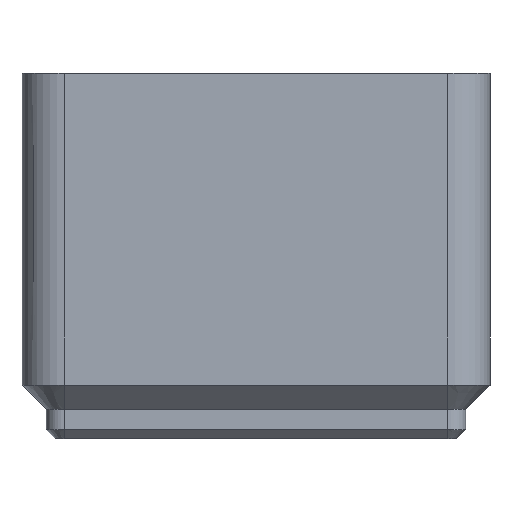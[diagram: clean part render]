
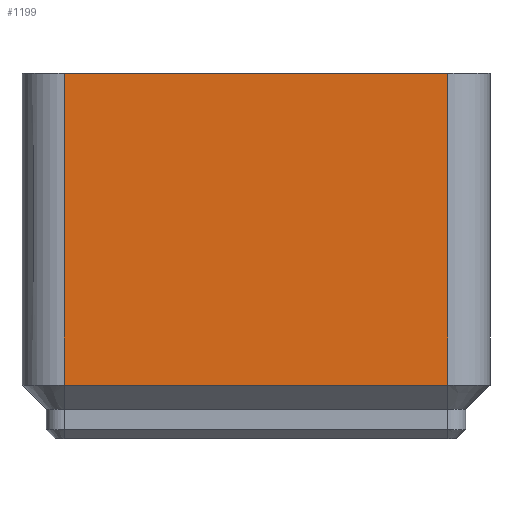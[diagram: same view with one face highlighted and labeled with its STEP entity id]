
A CAD part, left-side view. The second image highlights one B-rep face of the part: STEP entity #1199.
In plain terms, the highlighted planar face has unit normal (-1, 0, 0).
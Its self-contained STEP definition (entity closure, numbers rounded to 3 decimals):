
#416 = PLANE('',#417);
#417 = AXIS2_PLACEMENT_3D('',#418,#419,#420);
#418 = CARTESIAN_POINT('',(-20.75,0.,4.75));
#419 = DIRECTION('',(-0.707,0.,-0.707));
#420 = DIRECTION('',(0.,-1.,-0.));
#793 = VERTEX_POINT('',#794);
#794 = CARTESIAN_POINT('',(-20.75,-17.,4.75));
#812 = EDGE_CURVE('',#793,#813,#815,.T.);
#813 = VERTEX_POINT('',#814);
#814 = CARTESIAN_POINT('',(-20.75,17.,4.75));
#815 = SURFACE_CURVE('',#816,(#820,#827),.PCURVE_S1.);
#816 = LINE('',#817,#818);
#817 = CARTESIAN_POINT('',(-20.75,0.,4.75));
#818 = VECTOR('',#819,1.);
#819 = DIRECTION('',(0.,1.,0.));
#820 = PCURVE('',#416,#821);
#821 = DEFINITIONAL_REPRESENTATION('',(#822),#826);
#822 = LINE('',#823,#824);
#823 = CARTESIAN_POINT('',(0.,0.));
#824 = VECTOR('',#825,1.);
#825 = DIRECTION('',(-1.,0.));
#826 = ( GEOMETRIC_REPRESENTATION_CONTEXT(2) 
PARAMETRIC_REPRESENTATION_CONTEXT() REPRESENTATION_CONTEXT('2D SPACE',''
  ) );
#827 = PCURVE('',#828,#833);
#828 = PLANE('',#829);
#829 = AXIS2_PLACEMENT_3D('',#830,#831,#832);
#830 = CARTESIAN_POINT('',(-20.75,0.,5.05));
#831 = DIRECTION('',(-1.,0.,0.));
#832 = DIRECTION('',(-0.,-1.,-0.));
#833 = DEFINITIONAL_REPRESENTATION('',(#834),#838);
#834 = LINE('',#835,#836);
#835 = CARTESIAN_POINT('',(0.,-0.3));
#836 = VECTOR('',#837,1.);
#837 = DIRECTION('',(-1.,0.));
#838 = ( GEOMETRIC_REPRESENTATION_CONTEXT(2) 
PARAMETRIC_REPRESENTATION_CONTEXT() REPRESENTATION_CONTEXT('2D SPACE',''
  ) );
#1187 = CYLINDRICAL_SURFACE('',#1188,3.75);
#1188 = AXIS2_PLACEMENT_3D('',#1189,#1190,#1191);
#1189 = CARTESIAN_POINT('',(-17.,-17.,4.75));
#1190 = DIRECTION('',(-0.,-0.,1.));
#1191 = DIRECTION('',(-1.,0.,0.));
#1199 = ADVANCED_FACE('',(#1200),#828,.T.);
#1200 = FACE_BOUND('',#1201,.T.);
#1201 = EDGE_LOOP('',(#1202,#1203,#1226,#1254));
#1202 = ORIENTED_EDGE('',*,*,#812,.F.);
#1203 = ORIENTED_EDGE('',*,*,#1204,.T.);
#1204 = EDGE_CURVE('',#793,#1205,#1207,.T.);
#1205 = VERTEX_POINT('',#1206);
#1206 = CARTESIAN_POINT('',(-20.75,-17.,32.4));
#1207 = SURFACE_CURVE('',#1208,(#1212,#1219),.PCURVE_S1.);
#1208 = LINE('',#1209,#1210);
#1209 = CARTESIAN_POINT('',(-20.75,-17.,4.75));
#1210 = VECTOR('',#1211,1.);
#1211 = DIRECTION('',(0.,0.,1.));
#1212 = PCURVE('',#828,#1213);
#1213 = DEFINITIONAL_REPRESENTATION('',(#1214),#1218);
#1214 = LINE('',#1215,#1216);
#1215 = CARTESIAN_POINT('',(17.,-0.3));
#1216 = VECTOR('',#1217,1.);
#1217 = DIRECTION('',(-0.,1.));
#1218 = ( GEOMETRIC_REPRESENTATION_CONTEXT(2) 
PARAMETRIC_REPRESENTATION_CONTEXT() REPRESENTATION_CONTEXT('2D SPACE',''
  ) );
#1219 = PCURVE('',#1187,#1220);
#1220 = DEFINITIONAL_REPRESENTATION('',(#1221),#1225);
#1221 = LINE('',#1222,#1223);
#1222 = CARTESIAN_POINT('',(0.,0.));
#1223 = VECTOR('',#1224,1.);
#1224 = DIRECTION('',(0.,1.));
#1225 = ( GEOMETRIC_REPRESENTATION_CONTEXT(2) 
PARAMETRIC_REPRESENTATION_CONTEXT() REPRESENTATION_CONTEXT('2D SPACE',''
  ) );
#1226 = ORIENTED_EDGE('',*,*,#1227,.T.);
#1227 = EDGE_CURVE('',#1205,#1228,#1230,.T.);
#1228 = VERTEX_POINT('',#1229);
#1229 = CARTESIAN_POINT('',(-20.75,17.,32.4));
#1230 = SURFACE_CURVE('',#1231,(#1235,#1242),.PCURVE_S1.);
#1231 = LINE('',#1232,#1233);
#1232 = CARTESIAN_POINT('',(-20.75,0.,32.4));
#1233 = VECTOR('',#1234,1.);
#1234 = DIRECTION('',(0.,1.,0.));
#1235 = PCURVE('',#828,#1236);
#1236 = DEFINITIONAL_REPRESENTATION('',(#1237),#1241);
#1237 = LINE('',#1238,#1239);
#1238 = CARTESIAN_POINT('',(-0.,27.35));
#1239 = VECTOR('',#1240,1.);
#1240 = DIRECTION('',(-1.,0.));
#1241 = ( GEOMETRIC_REPRESENTATION_CONTEXT(2) 
PARAMETRIC_REPRESENTATION_CONTEXT() REPRESENTATION_CONTEXT('2D SPACE',''
  ) );
#1242 = PCURVE('',#1243,#1248);
#1243 = PLANE('',#1244);
#1244 = AXIS2_PLACEMENT_3D('',#1245,#1246,#1247);
#1245 = CARTESIAN_POINT('',(0.,0.,32.4)
  );
#1246 = DIRECTION('',(0.,0.,1.));
#1247 = DIRECTION('',(1.,0.,-0.));
#1248 = DEFINITIONAL_REPRESENTATION('',(#1249),#1253);
#1249 = LINE('',#1250,#1251);
#1250 = CARTESIAN_POINT('',(-20.75,0.));
#1251 = VECTOR('',#1252,1.);
#1252 = DIRECTION('',(0.,1.));
#1253 = ( GEOMETRIC_REPRESENTATION_CONTEXT(2) 
PARAMETRIC_REPRESENTATION_CONTEXT() REPRESENTATION_CONTEXT('2D SPACE',''
  ) );
#1254 = ORIENTED_EDGE('',*,*,#1255,.T.);
#1255 = EDGE_CURVE('',#1228,#813,#1256,.T.);
#1256 = SURFACE_CURVE('',#1257,(#1261,#1268),.PCURVE_S1.);
#1257 = LINE('',#1258,#1259);
#1258 = CARTESIAN_POINT('',(-20.75,17.,32.4));
#1259 = VECTOR('',#1260,1.);
#1260 = DIRECTION('',(0.,0.,-1.));
#1261 = PCURVE('',#828,#1262);
#1262 = DEFINITIONAL_REPRESENTATION('',(#1263),#1267);
#1263 = LINE('',#1264,#1265);
#1264 = CARTESIAN_POINT('',(-17.,27.35));
#1265 = VECTOR('',#1266,1.);
#1266 = DIRECTION('',(0.,-1.));
#1267 = ( GEOMETRIC_REPRESENTATION_CONTEXT(2) 
PARAMETRIC_REPRESENTATION_CONTEXT() REPRESENTATION_CONTEXT('2D SPACE',''
  ) );
#1268 = PCURVE('',#1269,#1274);
#1269 = CYLINDRICAL_SURFACE('',#1270,3.75);
#1270 = AXIS2_PLACEMENT_3D('',#1271,#1272,#1273);
#1271 = CARTESIAN_POINT('',(-17.,17.,4.75));
#1272 = DIRECTION('',(-0.,-0.,1.));
#1273 = DIRECTION('',(-1.,0.,0.));
#1274 = DEFINITIONAL_REPRESENTATION('',(#1275),#1278);
#1275 = B_SPLINE_CURVE_WITH_KNOTS('',1,(#1276,#1277),.UNSPECIFIED.,.F.,
  .F.,(2,2),(0.,27.65),.PIECEWISE_BEZIER_KNOTS.);
#1276 = CARTESIAN_POINT('',(6.283,27.65));
#1277 = CARTESIAN_POINT('',(6.283,0.));
#1278 = ( GEOMETRIC_REPRESENTATION_CONTEXT(2) 
PARAMETRIC_REPRESENTATION_CONTEXT() REPRESENTATION_CONTEXT('2D SPACE',''
  ) );
